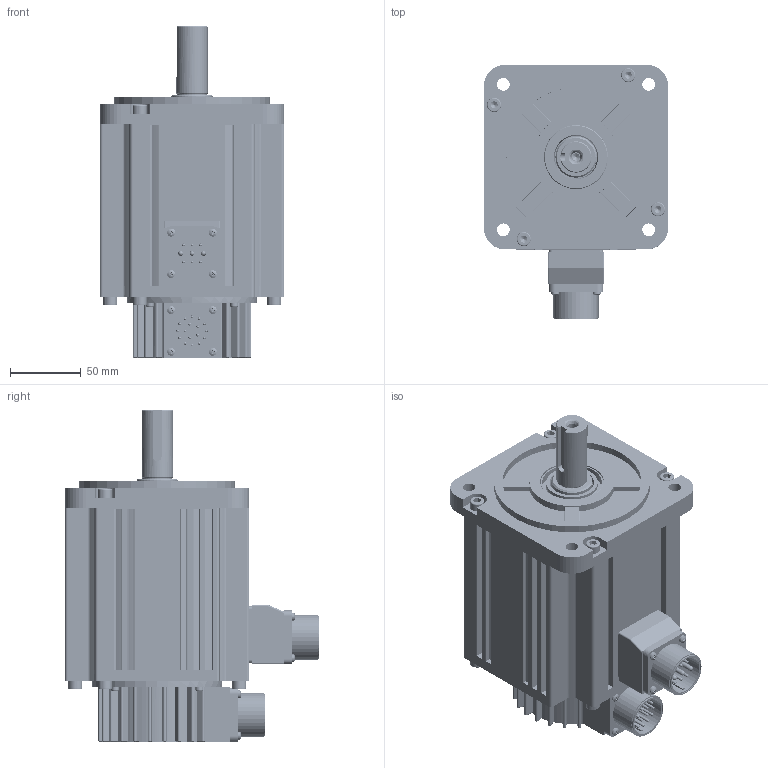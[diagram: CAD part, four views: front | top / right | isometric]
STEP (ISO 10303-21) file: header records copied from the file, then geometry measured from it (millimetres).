
FILE_DESCRIPTION((''),'2;1');
FILE_NAME('M-18E4K4A0_ASM','2019-06-13T',('zhouqs2'),(''),'CREO PARAMETRIC BY PTC INC, 2015480','CREO PARAMETRIC BY PTC INC, 2015480','');
FILE_SCHEMA(('CONFIG_CONTROL_DESIGN'));
Length unit declared in the file: millimetre
Products named in the file (20): 80D2003201; 80Q0003401; 80S2000601; ASM0001_ASM; 80D5003201; 80D2003101; 80D2000901; 80G3000501; MJ01-8033; MJ01-8041; PRT0013; 80T5001501_ASM; 80G6000101; 80G3000201; PRT0012; MJ01-8042; 80S6000401; 001_ASM; MJ01-8038; M-18E4K4A0_ASM
Assembly tree (35 placements, depth 3):
  M-18E4K4A0_ASM
    ASM0001_ASM
      80D2003201
      80Q0003401
      80S2000601
    80D5003201
    80D2003101
    80T5001501_ASM
      80D2000901
      80G3000501
      MJ01-8033  x4
      MJ01-8041  x4
      PRT0013
    001_ASM
      80G6000101
      80G3000201
      PRT0012
      MJ01-8042  x4
      80S6000401
    MJ01-8038  x8
Bounding box: 130 x 179 x 234.05 mm (x, y, z)
Volume: 570283.3 mm3; surface area: 326884.3 mm2
Topology: 31 solids, 56 shells, 5752 faces, 12559 edges, 6856 vertices
Faces by surface type: cone 2743, cylinder 2126, plane 739, sphere 118, torus 26
Entity records: 63869 total; most frequent: CARTESIAN_POINT 11885, DIRECTION 11841, ORIENTED_EDGE 10112, EDGE_CURVE 5109, AXIS2_PLACEMENT_3D 4656, VERTEX_POINT 3055, VECTOR 2529, LINE 2529
